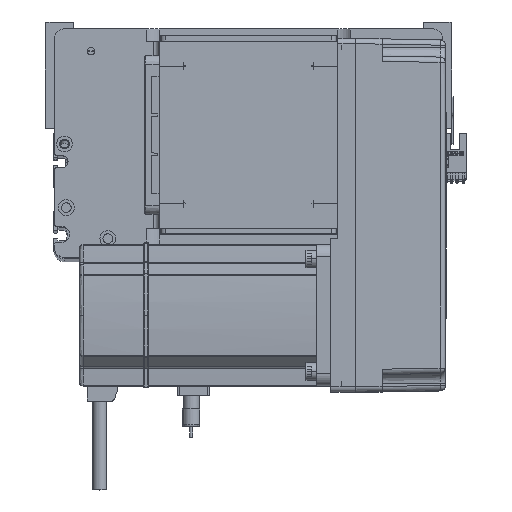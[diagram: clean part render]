
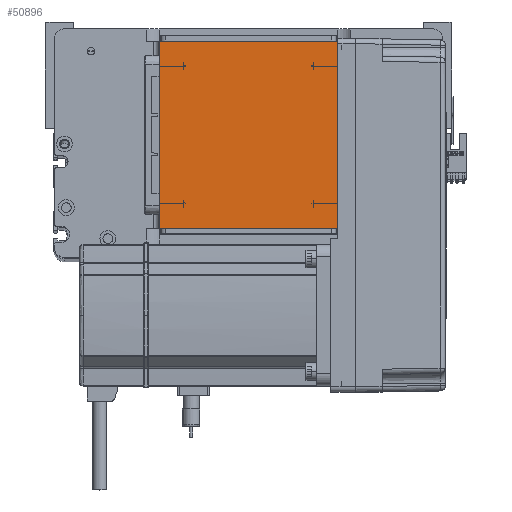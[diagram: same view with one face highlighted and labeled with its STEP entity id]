
A CAD part, top view. The second image highlights one B-rep face of the part: STEP entity #50896.
In plain terms, the highlighted planar face has unit normal (0, 0, 1).
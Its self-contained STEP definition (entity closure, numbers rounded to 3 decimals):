
#154 = EDGE_CURVE ( 'NONE', #20563, #34475, #26903, .T. ) ;
#408 = CARTESIAN_POINT ( 'NONE',  ( -50.5, 122., 115. ) ) ;
#3265 = DIRECTION ( 'NONE',  ( 0., 0., 1. ) ) ;
#6465 = AXIS2_PLACEMENT_3D ( 'NONE', #10723, #3265, #15259 ) ;
#6930 = LINE ( 'NONE', #8496, #31191 ) ;
#8441 = CARTESIAN_POINT ( 'NONE',  ( 50.5, 122., 115. ) ) ;
#8496 = CARTESIAN_POINT ( 'NONE',  ( -50.5, 16., 115. ) ) ;
#9339 = LINE ( 'NONE', #21005, #23691 ) ;
#9765 = ORIENTED_EDGE ( 'NONE', *, *, #10147, .T. ) ;
#10147 = EDGE_CURVE ( 'NONE', #41189, #39059, #6930, .T. ) ;
#10723 = CARTESIAN_POINT ( 'NONE',  ( 0., 0., 115. ) ) ;
#11676 = CARTESIAN_POINT ( 'NONE',  ( -50.5, 122., 115. ) ) ;
#15259 = DIRECTION ( 'NONE',  ( 1., 0., 0. ) ) ;
#15849 = DIRECTION ( 'NONE',  ( 0., -1., 0. ) ) ;
#20563 = VERTEX_POINT ( 'NONE', #8441 ) ;
#21005 = CARTESIAN_POINT ( 'NONE',  ( 50.5, 122., 115. ) ) ;
#21328 = VECTOR ( 'NONE', #40706, 1000. ) ;
#21681 = FACE_OUTER_BOUND ( 'NONE', #24632, .T. ) ;
#23691 = VECTOR ( 'NONE', #25153, 1000. ) ;
#24632 = EDGE_LOOP ( 'NONE', ( #42913, #9765, #26615, #50759 ) ) ;
#25153 = DIRECTION ( 'NONE',  ( 0., 1., 0. ) ) ;
#26615 = ORIENTED_EDGE ( 'NONE', *, *, #42009, .T. ) ;
#26903 = LINE ( 'NONE', #408, #21328 ) ;
#28162 = DIRECTION ( 'NONE',  ( 1., 0., 0. ) ) ;
#31191 = VECTOR ( 'NONE', #28162, 1000. ) ;
#33882 = EDGE_CURVE ( 'NONE', #34475, #41189, #46160, .T. ) ;
#34374 = PLANE ( 'NONE',  #6465 ) ;
#34475 = VERTEX_POINT ( 'NONE', #42909 ) ;
#39059 = VERTEX_POINT ( 'NONE', #47301 ) ;
#39356 = VECTOR ( 'NONE', #15849, 1000. ) ;
#40706 = DIRECTION ( 'NONE',  ( -1., 0., 0. ) ) ;
#41189 = VERTEX_POINT ( 'NONE', #42600 ) ;
#42009 = EDGE_CURVE ( 'NONE', #39059, #20563, #9339, .T. ) ;
#42600 = CARTESIAN_POINT ( 'NONE',  ( -50.5, 16., 115. ) ) ;
#42909 = CARTESIAN_POINT ( 'NONE',  ( -50.5, 122., 115. ) ) ;
#42913 = ORIENTED_EDGE ( 'NONE', *, *, #33882, .T. ) ;
#46160 = LINE ( 'NONE', #11676, #39356 ) ;
#47301 = CARTESIAN_POINT ( 'NONE',  ( 50.5, 16., 115. ) ) ;
#50759 = ORIENTED_EDGE ( 'NONE', *, *, #154, .T. ) ;
#50896 = ADVANCED_FACE ( 'NONE', ( #21681 ), #34374, .T. ) ;
